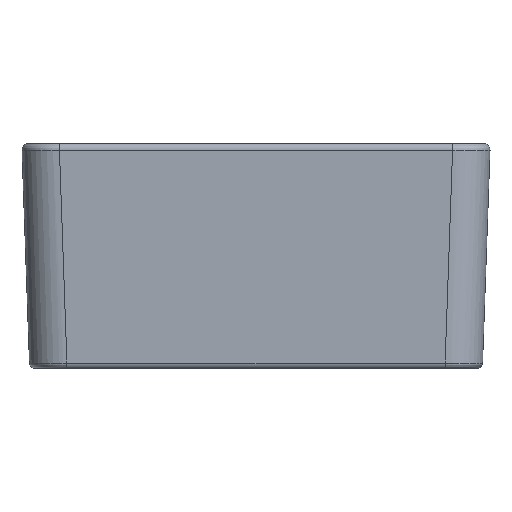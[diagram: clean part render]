
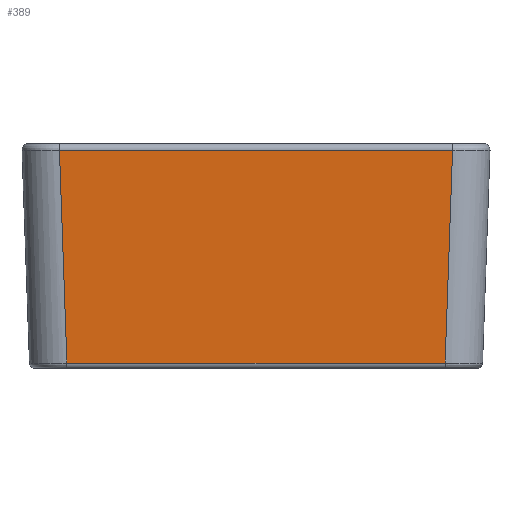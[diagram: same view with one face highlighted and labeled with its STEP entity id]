
A CAD part, front view. The second image highlights one B-rep face of the part: STEP entity #389.
In plain terms, the highlighted planar face has unit normal (0, -0.999, -0.035).
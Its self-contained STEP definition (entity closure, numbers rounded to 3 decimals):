
#234=FACE_OUTER_BOUND('',#848,.T.);
#389=ADVANCED_FACE('',(#234),#548,.T.);
#548=PLANE('',#2538);
#848=EDGE_LOOP('',(#1142,#1143,#1144,#1145));
#1142=ORIENTED_EDGE('',*,*,#2042,.T.);
#1143=ORIENTED_EDGE('',*,*,#2043,.T.);
#1144=ORIENTED_EDGE('',*,*,#2044,.T.);
#1145=ORIENTED_EDGE('',*,*,#2045,.T.);
#1830=VERTEX_POINT('',#4129);
#1831=VERTEX_POINT('',#4130);
#1832=VERTEX_POINT('',#4132);
#1833=VERTEX_POINT('',#4134);
#2042=EDGE_CURVE('',#1830,#1831,#2338,.T.);
#2043=EDGE_CURVE('',#1831,#1832,#2339,.T.);
#2044=EDGE_CURVE('',#1832,#1833,#2340,.T.);
#2045=EDGE_CURVE('',#1833,#1830,#2341,.T.);
#2338=LINE('',#4128,#2434);
#2339=LINE('',#4131,#2435);
#2340=LINE('',#4133,#2436);
#2341=LINE('',#4135,#2437);
#2434=VECTOR('',#2844,1.);
#2435=VECTOR('',#2845,1.);
#2436=VECTOR('',#2846,1.);
#2437=VECTOR('',#2847,1.);
#2538=AXIS2_PLACEMENT_3D('',#4136,#2848,#2849);
#2844=DIRECTION('',(0.035,0.035,-0.999));
#2845=DIRECTION('',(1.,0.,0.));
#2846=DIRECTION('',(0.035,-0.035,0.999));
#2847=DIRECTION('',(-1.,0.,0.));
#2848=DIRECTION('',(0.,-0.999,-0.035));
#2849=DIRECTION('',(0.,0.035,-0.999));
#4128=CARTESIAN_POINT('',(-104.884,-124.872,97.342));
#4129=CARTESIAN_POINT('',(-104.886,-124.874,97.378));
#4130=CARTESIAN_POINT('',(-100.923,-120.911,-16.105));
#4131=CARTESIAN_POINT('',(100.822,-120.911,-16.105));
#4132=CARTESIAN_POINT('',(100.923,-120.911,-16.105));
#4133=CARTESIAN_POINT('',(104.884,-124.872,97.342));
#4134=CARTESIAN_POINT('',(104.886,-124.874,97.378));
#4135=CARTESIAN_POINT('',(0.,-124.874,97.378));
#4136=CARTESIAN_POINT('',(0.,-125.,101.));
